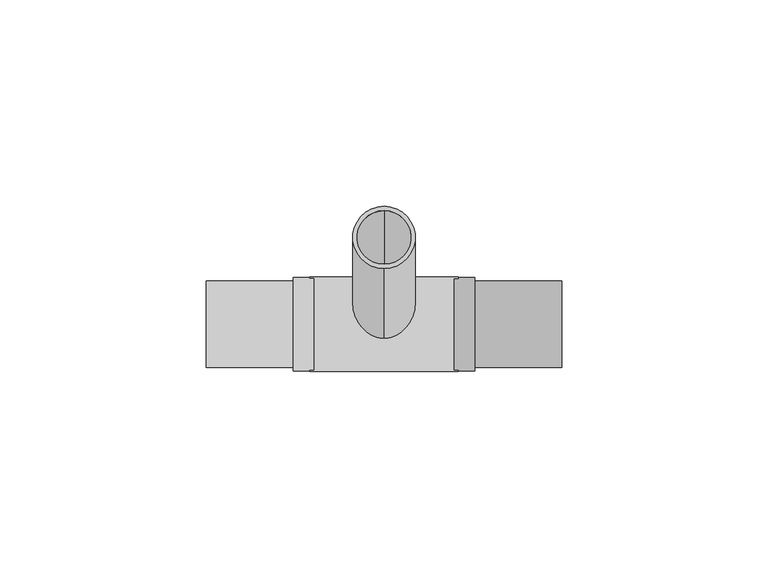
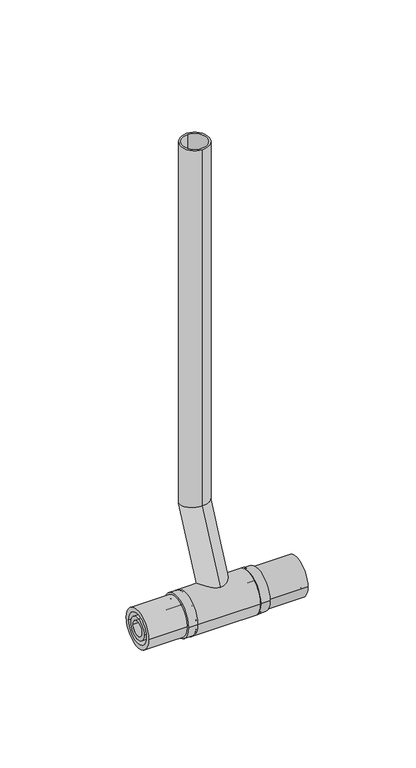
"""IFC4 building model written with IfcOpenShell, lengths in millimetres: pipe fitting geometry, PIF_Tigris_Tee_Radiator_Connector_M5_Wavin : Diameters 16-15/20-15."""

from ifc_helpers import new_model, si_unit, point, frame, origin, origin_2d, place, context, project, spatial, polyline, circle_curve, ellipse_curve, trimmed, segment, composite_curve, outline, extrude, source, transform, mapped, element, save
from ifc_brep_helpers import plane_surface, cylinder_surface, revolved_surface, advanced_brep


def pipe_fitting_a6db7834(model_context):
    return source(origin(), model_context, "Body", "SolidModel", [
        extrude(outline(composite_curve([segment(trimmed(circle_curve(origin_2d(), 11.35), [point((11.35, 0.0))], [point((-11.35, 0.0))], False, "CARTESIAN"), True, "CONTINUOUS"), segment(trimmed(circle_curve(origin_2d(), 11.35), [point((-11.35, 0.0))], [point((11.35, 0.0))], False, "CARTESIAN"), True, "CONTINUOUS")], self_intersect=False)), frame((17.0, 0.0, 0.0), z_axis=(1.0, 0.0, 0.0), x_axis=(0.0, 1.0, 0.0)), (0.0, 0.0, 1.0), 5.0),
        extrude(outline(composite_curve([segment(trimmed(circle_curve(origin_2d(), 10.5), [point((10.5, 0.0))], [point((-10.5, 0.0))], False, "CARTESIAN"), True, "CONTINUOUS"), segment(trimmed(circle_curve(origin_2d(), 10.5), [point((-10.5, 0.0))], [point((10.5, 0.0))], False, "CARTESIAN"), True, "CONTINUOUS")], self_intersect=False), holes=[composite_curve([segment(trimmed(circle_curve(origin_2d(), 8.2), [point((8.2, 0.0))], [point((-8.2, 0.0))], True, "CARTESIAN"), True, "CONTINUOUS"), segment(trimmed(circle_curve(origin_2d(), 8.2), [point((-8.2, 0.0))], [point((8.2, 0.0))], True, "CARTESIAN"), True, "CONTINUOUS")], self_intersect=False)]), frame((22.0, 0.0, 0.0), z_axis=(1.0, 0.0, 0.0), x_axis=(0.0, 1.0, 0.0)), (0.0, 0.0, 1.0), 21.0),
        extrude(outline(composite_curve([segment(trimmed(circle_curve(origin_2d(), 6.1), [point((6.1, 0.0))], [point((-6.1, 0.0))], False, "CARTESIAN"), True, "CONTINUOUS"), segment(trimmed(circle_curve(origin_2d(), 6.1), [point((-6.1, 0.0))], [point((6.1, 0.0))], False, "CARTESIAN"), True, "CONTINUOUS")], self_intersect=False), holes=[composite_curve([segment(trimmed(circle_curve(origin_2d(), 4.0), [point((4.0, 0.0))], [point((-4.0, 0.0))], True, "CARTESIAN"), True, "CONTINUOUS"), segment(trimmed(circle_curve(origin_2d(), 4.0), [point((-4.0, 0.0))], [point((4.0, 0.0))], True, "CARTESIAN"), True, "CONTINUOUS")], self_intersect=False)]), frame((18.0, 0.0, 0.0), z_axis=(1.0, 0.0, 0.0), x_axis=(0.0, 1.0, 0.0)), (0.0, 0.0, 1.0), 25.0),
        extrude(outline(composite_curve([segment(trimmed(circle_curve(origin_2d(), 11.35), [point((-11.35, 0.0))], [point((11.35, 0.0))], False, "CARTESIAN"), True, "CONTINUOUS"), segment(trimmed(circle_curve(origin_2d(), 11.35), [point((11.35, 0.0))], [point((-11.35, 0.0))], False, "CARTESIAN"), True, "CONTINUOUS")], self_intersect=False)), frame((-22.0, 0.0, 0.0), z_axis=(1.0, 0.0, 0.0), x_axis=(0.0, 1.0, 0.0)), (0.0, 0.0, 1.0), 5.0),
        extrude(outline(composite_curve([segment(trimmed(circle_curve(origin_2d(), 10.5), [point((-10.5, 0.0))], [point((10.5, 0.0))], False, "CARTESIAN"), True, "CONTINUOUS"), segment(trimmed(circle_curve(origin_2d(), 10.5), [point((10.5, 0.0))], [point((-10.5, 0.0))], False, "CARTESIAN"), True, "CONTINUOUS")], self_intersect=False), holes=[composite_curve([segment(trimmed(circle_curve(origin_2d(), 8.2), [point((-8.2, 0.0))], [point((8.2, 0.0))], True, "CARTESIAN"), True, "CONTINUOUS"), segment(trimmed(circle_curve(origin_2d(), 8.2), [point((8.2, 0.0))], [point((-8.2, 0.0))], True, "CARTESIAN"), True, "CONTINUOUS")], self_intersect=False)]), frame((-43.0, 0.0, 0.0), z_axis=(1.0, 0.0, 0.0), x_axis=(0.0, 1.0, 0.0)), (0.0, 0.0, 1.0), 21.0),
        extrude(outline(composite_curve([segment(trimmed(circle_curve(origin_2d(), 6.1), [point((-6.1, 0.0))], [point((6.1, 0.0))], False, "CARTESIAN"), True, "CONTINUOUS"), segment(trimmed(circle_curve(origin_2d(), 6.1), [point((6.1, 0.0))], [point((-6.1, 0.0))], False, "CARTESIAN"), True, "CONTINUOUS")], self_intersect=False), holes=[composite_curve([segment(trimmed(circle_curve(origin_2d(), 4.0), [point((-4.0, 0.0))], [point((4.0, 0.0))], True, "CARTESIAN"), True, "CONTINUOUS"), segment(trimmed(circle_curve(origin_2d(), 4.0), [point((4.0, 0.0))], [point((-4.0, 0.0))], True, "CARTESIAN"), True, "CONTINUOUS")], self_intersect=False)]), frame((-43.0, 0.0, 0.0), z_axis=(1.0, 0.0, 0.0), x_axis=(0.0, 1.0, 0.0)), (0.0, 0.0, 1.0), 25.0),
        advanced_brep(
        [(0.0, 6.8426238, -3.1907679), (0.0, -6.8426238, 3.1907679), (0.0, 5.8910006, -2.7470187), (0.0, -5.8910006, 2.7470187), (0.0, 27.5, 43.59363), (0.0, 14.5, 46.4756606), (0.0, 28.55, 43.3608506), (0.0, 13.45, 46.70844), (0.0, 28.55, 249.9007814), (0.0, 13.45, 249.9007814), (0.0, 27.5, 249.9007814), (0.0, 14.5, 249.9007814)],
        [
            (0, 1, circle_curve(frame((0.0, 0.0, 0.0), z_axis=(0.0, -0.4226182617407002, -0.9063077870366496), x_axis=(0.0, -0.9063077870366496, 0.4226182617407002)), 7.55)),
            (1, 0, circle_curve(frame((0.0, 0.0, 0.0), z_axis=(0.0, -0.4226182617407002, -0.9063077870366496), x_axis=(0.0, -0.9063077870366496, 0.4226182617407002)), 7.55)),
            (2, 3, circle_curve(frame((0.0, 0.0, 0.0), z_axis=(0.0, 0.4226182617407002, 0.9063077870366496), x_axis=(0.0, -0.9063077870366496, 0.4226182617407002)), 6.5)),
            (3, 2, circle_curve(frame((0.0, 0.0, 0.0), z_axis=(0.0, 0.4226182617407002, 0.9063077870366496), x_axis=(0.0, -0.9063077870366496, 0.4226182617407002)), 6.5)),
            (2, 4),
            (4, 5, ellipse_curve(frame((0.0, 21.0, 45.0346453), z_axis=(0.0, 0.21643961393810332, 0.9762960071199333), x_axis=(0.0, 0.9762960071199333, -0.21643961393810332)), 6.6578168, 6.5)),
            (5, 3),
            (5, 4, ellipse_curve(frame((0.0, 21.0, 45.0346453), z_axis=(0.0, 0.21643961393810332, 0.9762960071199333), x_axis=(0.0, 0.9762960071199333, -0.21643961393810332)), 6.6578168, 6.5)),
            (0, 6),
            (6, 7, ellipse_curve(frame((0.0, 21.0, 45.0346453), z_axis=(0.0, -0.21643961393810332, -0.9762960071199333), x_axis=(0.0, -0.9762960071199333, 0.21643961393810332)), 7.7333103, 7.55)),
            (7, 1),
            (7, 6, ellipse_curve(frame((0.0, 21.0, 45.0346453), z_axis=(0.0, -0.21643961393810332, -0.9762960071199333), x_axis=(0.0, -0.9762960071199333, 0.21643961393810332)), 7.7333103, 7.55)),
            (8, 9, circle_curve(frame((0.0, 21.0, 249.9007814), z_axis=(0.0, 0.0, 1.0), x_axis=(0.0, -1.0, 0.0)), 7.55)),
            (9, 8, circle_curve(frame((0.0, 21.0, 249.9007814), z_axis=(0.0, 0.0, 1.0), x_axis=(0.0, -1.0, 0.0)), 7.55)),
            (10, 11, circle_curve(frame((0.0, 21.0, 249.9007814), z_axis=(0.0, 0.0, -1.0), x_axis=(0.0, -1.0, 0.0)), 6.5)),
            (11, 10, circle_curve(frame((0.0, 21.0, 249.9007814), z_axis=(0.0, 0.0, -1.0), x_axis=(0.0, -1.0, 0.0)), 6.5)),
            (4, 10),
            (11, 5),
            (6, 8),
            (9, 7),
        ],
        [
            plane_surface(frame((0.0, 0.0, 0.0), z_axis=(0.0, -0.4226182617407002, -0.9063077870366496), x_axis=(1.0, 0.0, 0.0))),
            revolved_surface(polyline([(0.0, 15.717998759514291, 49.087667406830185), (0.0, -5.8910006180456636, 2.747018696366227)]), (0.0, 0.0, 0.0), (0.0, 0.4226182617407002, 0.9063077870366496)),
            cylinder_surface(frame((0.0, 0.0, 0.0), z_axis=(0.0, -0.4226182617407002, -0.9063077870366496), x_axis=(0.0, -0.9063077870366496, 0.4226182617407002)), 7.55),
            plane_surface(frame((0.0, 21.0, 249.9007814), z_axis=(0.0, 0.0, 1.0), x_axis=(1.0, 0.0, 0.0))),
            revolved_surface(polyline([(0.0, 14.5, 249.9007814), (0.0, 14.5, 43.59363)]), (0.0, 21.0, 45.0346453), (0.0, 0.0, 1.0)),
            cylinder_surface(frame((0.0, 21.0, 45.0346453), z_axis=(0.0, 0.0, -1.0), x_axis=(0.0, -1.0, 0.0)), 7.55),
        ],
        [
            (0, [[1, 2], [3, 4]]),
            (1, [[-3, 5, 6, 7]]),
            (1, [[-4, -7, 8, -5]]),
            (2, [[-1, 9, 10, 11]]),
            (2, [[-2, -11, 12, -9]]),
            (3, [[13, 14], [15, 16]]),
            (4, [[-6, 17, -16, 18]]),
            (4, [[-8, -18, -15, -17]]),
            (5, [[-10, 19, -14, 20]]),
            (5, [[-12, -20, -13, -19]]),
        ],
    ),
        extrude(outline(composite_curve([segment(trimmed(circle_curve(origin_2d(), 11.5), [point((-11.5, 0.0))], [point((11.5, 0.0))], False, "CARTESIAN"), True, "CONTINUOUS"), segment(trimmed(circle_curve(origin_2d(), 11.5), [point((11.5, 0.0))], [point((-11.5, 0.0))], False, "CARTESIAN"), True, "CONTINUOUS")], self_intersect=False)), frame((-18.0, 0.0, 0.0), z_axis=(1.0, 0.0, 0.0), x_axis=(0.0, 1.0, 0.0)), (0.0, 0.0, 1.0), 36.0),
    ])


if __name__ == "__main__":
    model = new_model("IFC4")
    model_context = context("Model", 3, world=origin())
    ifc_project = project(units=[si_unit("LENGTHUNIT", "METRE", prefix="MILLI")], contexts=[model_context])
    site = spatial("IfcSite", under=ifc_project)
    building = spatial("IfcBuilding", under=site)
    placement = place(None, origin())
    pipe_fitting_shape = pipe_fitting_a6db7834(model_context)
    element("IfcPipeFitting", 1, ObjectType="PIF_Tigris_Tee_Radiator_Connector_M5_Wavin : Diameters 16-15/20-15", at=placement, inside=building, context=model_context, shape_type="MappedRepresentation", body=[
        mapped(pipe_fitting_shape, transform((0.0, 0.0, 0.0), x_axis=(1.0, 0.0, 0.0), y_axis=(0.0, 1.0, 0.0), z_axis=(0.0, 0.0, 1.0))),
    ])
    save(model, "model.ifc")
